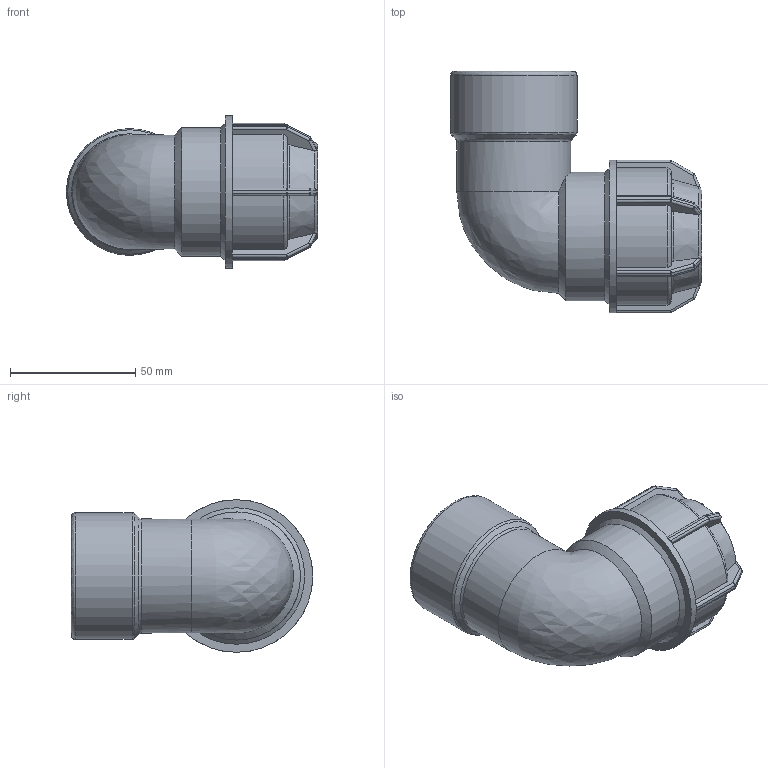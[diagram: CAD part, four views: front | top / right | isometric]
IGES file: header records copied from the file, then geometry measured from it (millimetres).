
Global section: file name: 141500032013.ipt; native system: Autodesk Inventor 2015; preprocessor: unknown; author: KIM; date: 20180409.131159; units: millimetre
Bounding box: 100.32 x 96.5 x 61 mm (x, y, z)
Volume: 140755.9 mm3; surface area: 39641.1 mm2
Topology: 1 solids, 1 shells, 215 faces, 524 edges, 308 vertices
Faces by surface type: plane 100, cylinder 58, sphere 24, revolution 23, cone 9, bspline 1
Full cylindrical faces by diameter (mm): 45.574 x1, 50.638 x1, 51.2 x1, 61 x1
